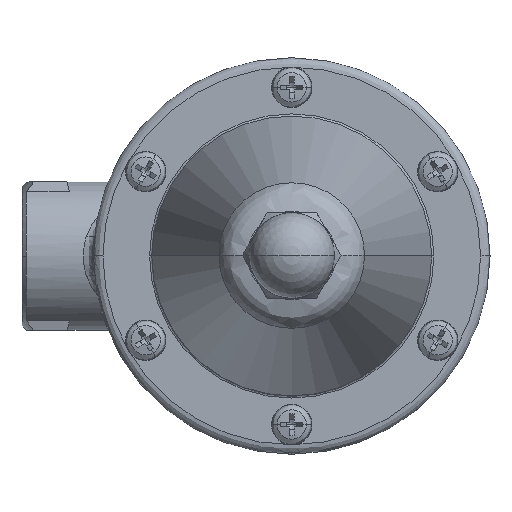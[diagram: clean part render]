
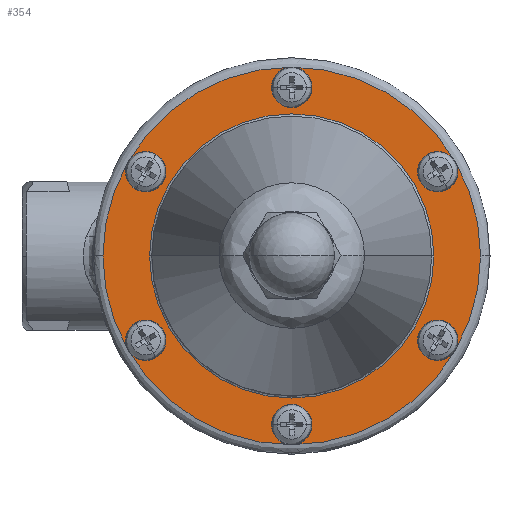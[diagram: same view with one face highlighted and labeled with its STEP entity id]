
A CAD part, top view. The second image highlights one B-rep face of the part: STEP entity #354.
In plain terms, the highlighted planar face has unit normal (0, 0, 1).
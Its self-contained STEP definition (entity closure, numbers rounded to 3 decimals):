
#354=ADVANCED_FACE('',(#2250,#2251,#2252,#2253,#2254,#2255,#2256,#2257),#2249,.T.);
#2249=PLANE('',#7106);
#2250=FACE_OUTER_BOUND('',#7107,.T.);
#2251=FACE_BOUND('',#7108,.T.);
#2252=FACE_BOUND('',#7109,.T.);
#2253=FACE_BOUND('',#7110,.T.);
#2254=FACE_BOUND('',#7111,.T.);
#2255=FACE_BOUND('',#7112,.T.);
#2256=FACE_BOUND('',#7113,.T.);
#2257=FACE_BOUND('',#7114,.T.);
#7103=CARTESIAN_POINT('',(-67.,-82.746,29.2));
#7104=DIRECTION('',(0.,0.,1.));
#7105=DIRECTION('',(1.,0.,0.));
#7106=AXIS2_PLACEMENT_3D('',#7103,#7104,#7105);
#7107=EDGE_LOOP('',(#11079,#11080));
#7108=EDGE_LOOP('',(#11081,#11082));
#7109=EDGE_LOOP('',(#11083,#11084));
#7110=EDGE_LOOP('',(#11085,#11086));
#7111=EDGE_LOOP('',(#11087,#11088));
#7112=EDGE_LOOP('',(#11089,#11090));
#7113=EDGE_LOOP('',(#11091,#11092));
#7114=EDGE_LOOP('',(#11093,#11094));
#11079=ORIENTED_EDGE('',*,*,#12999,.F.);
#11080=ORIENTED_EDGE('',*,*,#13000,.F.);
#11081=ORIENTED_EDGE('',*,*,#13001,.F.);
#11082=ORIENTED_EDGE('',*,*,#13002,.F.);
#11083=ORIENTED_EDGE('',*,*,#13003,.F.);
#11084=ORIENTED_EDGE('',*,*,#13004,.F.);
#11085=ORIENTED_EDGE('',*,*,#13005,.F.);
#11086=ORIENTED_EDGE('',*,*,#13006,.F.);
#11087=ORIENTED_EDGE('',*,*,#13007,.F.);
#11088=ORIENTED_EDGE('',*,*,#13008,.F.);
#11089=ORIENTED_EDGE('',*,*,#13009,.F.);
#11090=ORIENTED_EDGE('',*,*,#13010,.F.);
#11091=ORIENTED_EDGE('',*,*,#13011,.T.);
#11092=ORIENTED_EDGE('',*,*,#13012,.T.);
#11093=ORIENTED_EDGE('',*,*,#13013,.F.);
#11094=ORIENTED_EDGE('',*,*,#13014,.F.);
#12999=EDGE_CURVE('',#17100,#17101,#17102,.T.);
#13000=EDGE_CURVE('',#17101,#17100,#17108,.T.);
#13001=EDGE_CURVE('',#17114,#17115,#17116,.T.);
#13002=EDGE_CURVE('',#17115,#17114,#17122,.T.);
#13003=EDGE_CURVE('',#17128,#17129,#17130,.T.);
#13004=EDGE_CURVE('',#17129,#17128,#17136,.T.);
#13005=EDGE_CURVE('',#17142,#17143,#17144,.T.);
#13006=EDGE_CURVE('',#17143,#17142,#17150,.T.);
#13007=EDGE_CURVE('',#17156,#17157,#17158,.T.);
#13008=EDGE_CURVE('',#17157,#17156,#17164,.T.);
#13009=EDGE_CURVE('',#17170,#17171,#17172,.T.);
#13010=EDGE_CURVE('',#17171,#17170,#17178,.T.);
#13011=EDGE_CURVE('',#17184,#17185,#17186,.T.);
#13012=EDGE_CURVE('',#17185,#17184,#17192,.T.);
#13013=EDGE_CURVE('',#17198,#17199,#17200,.T.);
#13014=EDGE_CURVE('',#17199,#17198,#17206,.T.);
#17100=VERTEX_POINT('',#24236);
#17101=VERTEX_POINT('',#24237);
#17102=CIRCLE('',#24241,42.);
#17108=CIRCLE('',#24245,42.);
#17114=VERTEX_POINT('',#24246);
#17115=VERTEX_POINT('',#24247);
#17116=CIRCLE('',#24251,2.75);
#17122=CIRCLE('',#24255,2.75);
#17128=VERTEX_POINT('',#24256);
#17129=VERTEX_POINT('',#24257);
#17130=CIRCLE('',#24261,2.75);
#17136=CIRCLE('',#24265,2.75);
#17142=VERTEX_POINT('',#24266);
#17143=VERTEX_POINT('',#24267);
#17144=CIRCLE('',#24271,2.75);
#17150=CIRCLE('',#24275,2.75);
#17156=VERTEX_POINT('',#24276);
#17157=VERTEX_POINT('',#24277);
#17158=CIRCLE('',#24281,2.75);
#17164=CIRCLE('',#24285,2.75);
#17170=VERTEX_POINT('',#24286);
#17171=VERTEX_POINT('',#24287);
#17172=CIRCLE('',#24291,2.75);
#17178=CIRCLE('',#24295,2.75);
#17184=VERTEX_POINT('',#24296);
#17185=VERTEX_POINT('',#24297);
#17186=CIRCLE('',#24301,31.611);
#17192=CIRCLE('',#24305,31.611);
#17198=VERTEX_POINT('',#24306);
#17199=VERTEX_POINT('',#24307);
#17200=CIRCLE('',#24311,2.75);
#17206=CIRCLE('',#24315,2.75);
#24236=CARTESIAN_POINT('',(27.,0.,29.2));
#24237=CARTESIAN_POINT('',(-57.,0.,29.2));
#24238=CARTESIAN_POINT('',(-15.,0.,29.2));
#24239=DIRECTION('',(0.,0.,-1.));
#24240=DIRECTION('',(-1.,0.,0.));
#24241=AXIS2_PLACEMENT_3D('',#24238,#24239,#24240);
#24242=CARTESIAN_POINT('',(-15.,0.,29.2));
#24243=DIRECTION('',(0.,0.,-1.));
#24244=DIRECTION('',(-1.,0.,0.));
#24245=AXIS2_PLACEMENT_3D('',#24242,#24243,#24244);
#24246=CARTESIAN_POINT('',(-12.25,-37.5,29.2));
#24247=CARTESIAN_POINT('',(-17.75,-37.5,29.2));
#24248=CARTESIAN_POINT('',(-15.,-37.5,29.2));
#24249=DIRECTION('',(0.,0.,1.));
#24250=DIRECTION('',(-1.,0.,0.));
#24251=AXIS2_PLACEMENT_3D('',#24248,#24249,#24250);
#24252=CARTESIAN_POINT('',(-15.,-37.5,29.2));
#24253=DIRECTION('',(0.,0.,1.));
#24254=DIRECTION('',(-1.,0.,0.));
#24255=AXIS2_PLACEMENT_3D('',#24252,#24253,#24254);
#24256=CARTESIAN_POINT('',(20.226,-18.75,29.2));
#24257=CARTESIAN_POINT('',(14.726,-18.75,29.2));
#24258=CARTESIAN_POINT('',(17.476,-18.75,29.2));
#24259=DIRECTION('',(0.,0.,1.));
#24260=DIRECTION('',(-1.,0.,0.));
#24261=AXIS2_PLACEMENT_3D('',#24258,#24259,#24260);
#24262=CARTESIAN_POINT('',(17.476,-18.75,29.2));
#24263=DIRECTION('',(0.,0.,1.));
#24264=DIRECTION('',(-1.,0.,0.));
#24265=AXIS2_PLACEMENT_3D('',#24262,#24263,#24264);
#24266=CARTESIAN_POINT('',(20.226,18.75,29.2));
#24267=CARTESIAN_POINT('',(14.726,18.75,29.2));
#24268=CARTESIAN_POINT('',(17.476,18.75,29.2));
#24269=DIRECTION('',(0.,0.,1.));
#24270=DIRECTION('',(-1.,0.,0.));
#24271=AXIS2_PLACEMENT_3D('',#24268,#24269,#24270);
#24272=CARTESIAN_POINT('',(17.476,18.75,29.2));
#24273=DIRECTION('',(0.,0.,1.));
#24274=DIRECTION('',(-1.,0.,0.));
#24275=AXIS2_PLACEMENT_3D('',#24272,#24273,#24274);
#24276=CARTESIAN_POINT('',(-12.25,37.5,29.2));
#24277=CARTESIAN_POINT('',(-17.75,37.5,29.2));
#24278=CARTESIAN_POINT('',(-15.,37.5,29.2));
#24279=DIRECTION('',(0.,0.,1.));
#24280=DIRECTION('',(-1.,0.,0.));
#24281=AXIS2_PLACEMENT_3D('',#24278,#24279,#24280);
#24282=CARTESIAN_POINT('',(-15.,37.5,29.2));
#24283=DIRECTION('',(0.,0.,1.));
#24284=DIRECTION('',(-1.,0.,0.));
#24285=AXIS2_PLACEMENT_3D('',#24282,#24283,#24284);
#24286=CARTESIAN_POINT('',(-44.726,18.75,29.2));
#24287=CARTESIAN_POINT('',(-50.226,18.75,29.2));
#24288=CARTESIAN_POINT('',(-47.476,18.75,29.2));
#24289=DIRECTION('',(0.,0.,1.));
#24290=DIRECTION('',(-1.,0.,0.));
#24291=AXIS2_PLACEMENT_3D('',#24288,#24289,#24290);
#24292=CARTESIAN_POINT('',(-47.476,18.75,29.2));
#24293=DIRECTION('',(0.,0.,1.));
#24294=DIRECTION('',(-1.,0.,0.));
#24295=AXIS2_PLACEMENT_3D('',#24292,#24293,#24294);
#24296=CARTESIAN_POINT('',(-46.611,0.,29.2));
#24297=CARTESIAN_POINT('',(16.611,0.,29.2));
#24298=CARTESIAN_POINT('',(-15.,0.,29.2));
#24299=DIRECTION('',(0.,0.,-1.));
#24300=DIRECTION('',(-1.,0.,0.));
#24301=AXIS2_PLACEMENT_3D('',#24298,#24299,#24300);
#24302=CARTESIAN_POINT('',(-15.,0.,29.2));
#24303=DIRECTION('',(0.,0.,-1.));
#24304=DIRECTION('',(-1.,0.,0.));
#24305=AXIS2_PLACEMENT_3D('',#24302,#24303,#24304);
#24306=CARTESIAN_POINT('',(-44.726,-18.75,29.2));
#24307=CARTESIAN_POINT('',(-50.226,-18.75,29.2));
#24308=CARTESIAN_POINT('',(-47.476,-18.75,29.2));
#24309=DIRECTION('',(0.,0.,1.));
#24310=DIRECTION('',(-1.,0.,0.));
#24311=AXIS2_PLACEMENT_3D('',#24308,#24309,#24310);
#24312=CARTESIAN_POINT('',(-47.476,-18.75,29.2));
#24313=DIRECTION('',(0.,0.,1.));
#24314=DIRECTION('',(-1.,0.,0.));
#24315=AXIS2_PLACEMENT_3D('',#24312,#24313,#24314);
